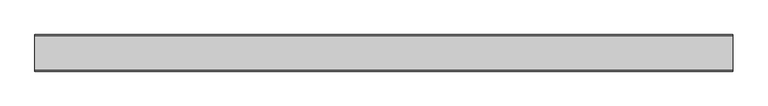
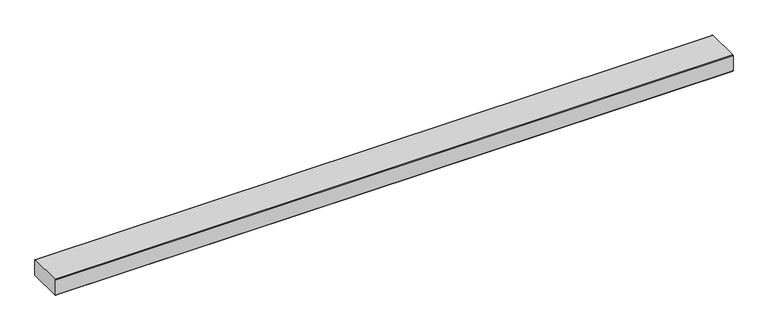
"""IFC4 building model written with IfcOpenShell, lengths in millimetres: duct fitting geometry, Кабель-канал DLP 50x105 - 1 секция - 1 крышка 65 мм - длина 2 м - белый : Кабель-канал DLP 50x105 - 1 секция - 1 крышка 65 мм - длина 2 м - белый."""

from ifc_helpers import new_model, si_unit, point, frame, frame_2d, origin, place, context, project, spatial, polyline, circle_curve, trimmed, segment, composite_curve, outline, extrude, source, transform, mapped, element, save


def duct_fitting_f187d280(model_context):
    return source(origin(), model_context, "Body", "SweptSolid", [
        extrude(outline(composite_curve([segment(trimmed(circle_curve(frame_2d((50.5, 48.0)), 2.0), [point((50.5, 50.0))], [point((52.5, 48.0))], False, "CARTESIAN"), True, "CONTINUOUS"), segment(polyline([(52.5, 48.0), (52.5, 2.0)]), True, "CONTINUOUS"), segment(trimmed(circle_curve(frame_2d((50.5, 2.0)), 2.0), [point((52.5, 2.0))], [point((50.5, 0.0))], False, "CARTESIAN"), True, "CONTINUOUS"), segment(polyline([(50.5, 0.0), (-50.5, 0.0)]), True, "CONTINUOUS"), segment(trimmed(circle_curve(frame_2d((-50.5, 2.0)), 2.0), [point((-50.5, 0.0))], [point((-52.5, 2.0))], False, "CARTESIAN"), True, "CONTINUOUS"), segment(polyline([(-52.5, 2.0), (-52.5, 48.0)]), True, "CONTINUOUS"), segment(trimmed(circle_curve(frame_2d((-50.5, 48.0)), 2.0), [point((-52.5, 48.0))], [point((-50.5, 50.0))], False, "CARTESIAN"), True, "CONTINUOUS"), segment(polyline([(-50.5, 50.0), (50.5, 50.0)]), True, "CONTINUOUS")], self_intersect=False)), frame((-1000.0, 0.0, 0.0), z_axis=(1.0, 0.0, 0.0), x_axis=(0.0, 1.0, 0.0)), (0.0, 0.0, 1.0), 2000.0),
    ])


if __name__ == "__main__":
    model = new_model("IFC4")
    model_context = context("Model", 3, world=origin())
    ifc_project = project(units=[si_unit("LENGTHUNIT", "METRE", prefix="MILLI")], contexts=[model_context])
    site = spatial("IfcSite", under=ifc_project)
    building = spatial("IfcBuilding", under=site)
    placement = place(None, origin())
    duct_fitting_shape = duct_fitting_f187d280(model_context)
    element("IfcDuctFitting", 1, ObjectType="Кабель-канал DLP 50x105 - 1 секция - 1 крышка 65 мм - длина 2 м - белый : Кабель-канал DLP 50x105 - 1 секция - 1 крышка 65 мм - длина 2 м - белый", at=placement, inside=building, context=model_context, shape_type="MappedRepresentation", body=[
        mapped(duct_fitting_shape, transform((0.0, 0.0, 0.0), x_axis=(1.0, 0.0, 0.0), y_axis=(0.0, 1.0, 0.0), z_axis=(0.0, 0.0, 1.0))),
    ])
    save(model, "model.ifc")
